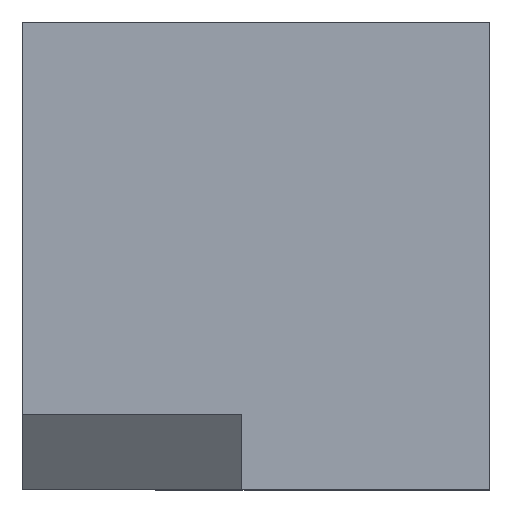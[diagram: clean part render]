
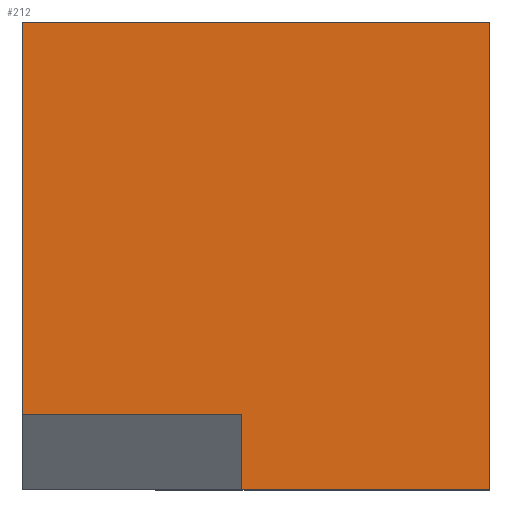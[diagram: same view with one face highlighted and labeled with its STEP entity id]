
A CAD part, top view. The second image highlights one B-rep face of the part: STEP entity #212.
In plain terms, the highlighted planar face has unit normal (0, 0, 1).
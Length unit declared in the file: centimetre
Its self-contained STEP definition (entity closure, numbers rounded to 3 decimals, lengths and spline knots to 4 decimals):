
#1 = DIRECTION ( 'NONE',  ( 0., 1., 0. ) ) ;
#10 = VERTEX_POINT ( 'NONE', #289 ) ;
#12 = LINE ( 'NONE', #832, #107 ) ;
#70 = ORIENTED_EDGE ( 'NONE', *, *, #663, .T. ) ;
#99 = LINE ( 'NONE', #879, #799 ) ;
#101 = VERTEX_POINT ( 'NONE', #970 ) ;
#107 = VECTOR ( 'NONE', #305, 100. ) ;
#109 = ORIENTED_EDGE ( 'NONE', *, *, #437, .F. ) ;
#118 = LINE ( 'NONE', #1025, #567 ) ;
#146 = CARTESIAN_POINT ( 'NONE',  ( 0., 0., 1000. ) ) ;
#178 = ORIENTED_EDGE ( 'NONE', *, *, #872, .T. ) ;
#212 = ADVANCED_FACE ( 'NONE', ( #949 ), #1147, .T. ) ;
#266 = VERTEX_POINT ( 'NONE', #1066 ) ;
#279 = VERTEX_POINT ( 'NONE', #696 ) ;
#289 = CARTESIAN_POINT ( 'NONE',  ( 1000., 1000., 1000. ) ) ;
#299 = DIRECTION ( 'NONE',  ( 1., 0., 0. ) ) ;
#305 = DIRECTION ( 'NONE',  ( -1., 0., 0. ) ) ;
#377 = CARTESIAN_POINT ( 'NONE',  ( 0., 1000., 1000. ) ) ;
#379 = VERTEX_POINT ( 'NONE', #1072 ) ;
#414 = EDGE_CURVE ( 'NONE', #379, #279, #12, .T. ) ;
#426 = DIRECTION ( 'NONE',  ( 0., -1., 0. ) ) ;
#437 = EDGE_CURVE ( 'NONE', #708, #379, #118, .T. ) ;
#488 = AXIS2_PLACEMENT_3D ( 'NONE', #146, #1054, #515 ) ;
#494 = CARTESIAN_POINT ( 'NONE',  ( 0., 1000., 1000. ) ) ;
#504 = VECTOR ( 'NONE', #299, 100. ) ;
#515 = DIRECTION ( 'NONE',  ( 1., 0., 0. ) ) ;
#554 = DIRECTION ( 'NONE',  ( 0., 1., 0. ) ) ;
#567 = VECTOR ( 'NONE', #554, 100. ) ;
#591 = EDGE_LOOP ( 'NONE', ( #816, #109, #606, #70, #178, #1024 ) ) ;
#606 = ORIENTED_EDGE ( 'NONE', *, *, #864, .T. ) ;
#615 = VECTOR ( 'NONE', #426, 100. ) ;
#663 = EDGE_CURVE ( 'NONE', #101, #10, #99, .T. ) ;
#696 = CARTESIAN_POINT ( 'NONE',  ( 0., 161.2054, 1000. ) ) ;
#708 = VERTEX_POINT ( 'NONE', #889 ) ;
#799 = VECTOR ( 'NONE', #1, 100. ) ;
#800 = VECTOR ( 'NONE', #1000, 100. ) ;
#810 = CARTESIAN_POINT ( 'NONE',  ( 0., 0., 1000. ) ) ;
#816 = ORIENTED_EDGE ( 'NONE', *, *, #414, .F. ) ;
#832 = CARTESIAN_POINT ( 'NONE',  ( 468.741, 161.2054, 1000. ) ) ;
#864 = EDGE_CURVE ( 'NONE', #708, #101, #907, .T. ) ;
#866 = LINE ( 'NONE', #494, #615 ) ;
#872 = EDGE_CURVE ( 'NONE', #10, #266, #1006, .T. ) ;
#879 = CARTESIAN_POINT ( 'NONE',  ( 1000., 1000., 1000. ) ) ;
#889 = CARTESIAN_POINT ( 'NONE',  ( 468.741, 0., 1000. ) ) ;
#907 = LINE ( 'NONE', #810, #504 ) ;
#949 = FACE_OUTER_BOUND ( 'NONE', #591, .T. ) ;
#970 = CARTESIAN_POINT ( 'NONE',  ( 1000., 0., 1000. ) ) ;
#1000 = DIRECTION ( 'NONE',  ( -1., 0., 0. ) ) ;
#1006 = LINE ( 'NONE', #377, #800 ) ;
#1024 = ORIENTED_EDGE ( 'NONE', *, *, #1030, .T. ) ;
#1025 = CARTESIAN_POINT ( 'NONE',  ( 468.741, 0., 1000. ) ) ;
#1030 = EDGE_CURVE ( 'NONE', #266, #279, #866, .T. ) ;
#1054 = DIRECTION ( 'NONE',  ( 0., 0., 1. ) ) ;
#1066 = CARTESIAN_POINT ( 'NONE',  ( 0., 1000., 1000. ) ) ;
#1072 = CARTESIAN_POINT ( 'NONE',  ( 468.741, 161.2054, 1000. ) ) ;
#1147 = PLANE ( 'NONE',  #488 ) ;
